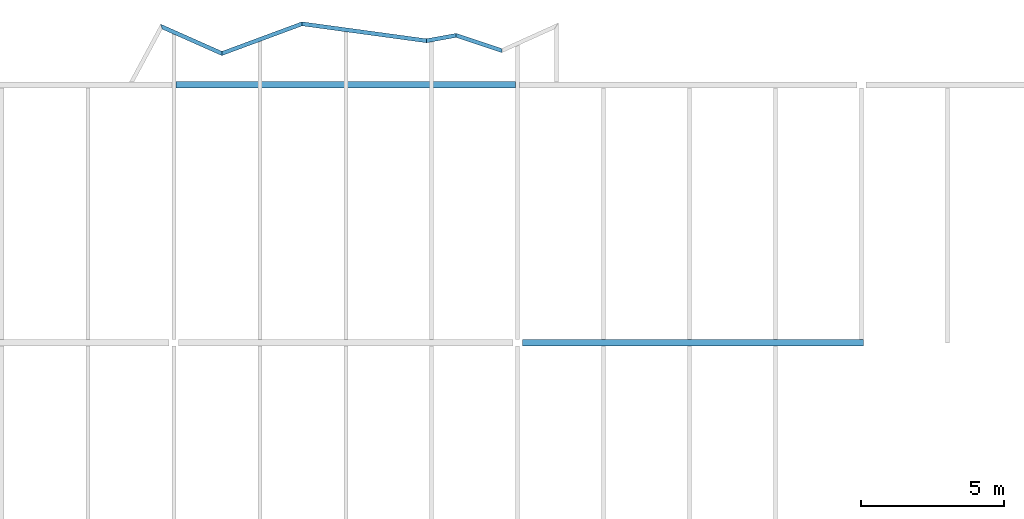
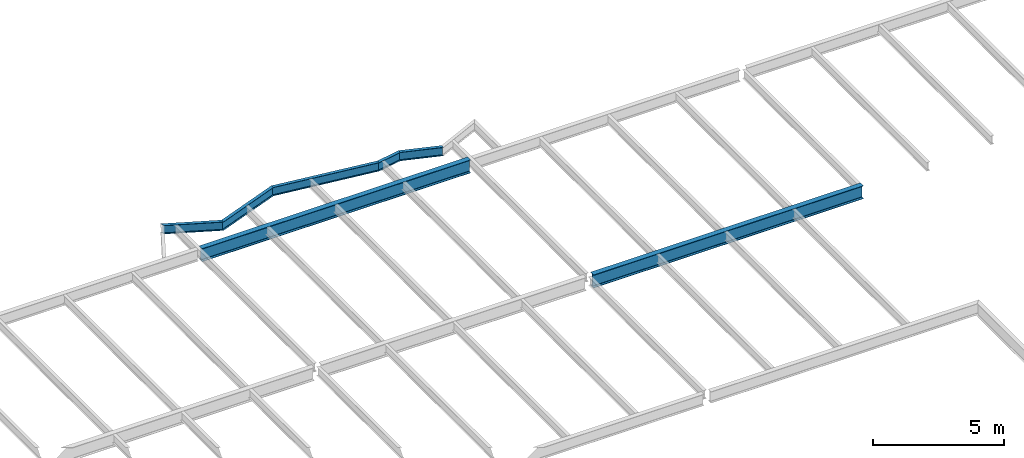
# One storey, part 8 of 21: 7 beams.
"""IFC2X3 building model written with IfcOpenShell, lengths in millimetres."""

from ifc_helpers import new_model, si_unit, origin, place, context, project, spatial, faceted_brep, material, element, save


model = new_model("IFC2X3")

# Units and contexts
context_of_model = context(None, 3, precision=1e-05, world=origin())
ifc_project = project(units=[si_unit("LENGTHUNIT", "METRE", prefix="MILLI")], contexts=[context_of_model])

# Building, storey
building = spatial("IfcBuilding", under=ifc_project, Name="Building", CompositionType="ELEMENT")
storey = spatial("IfcBuildingStorey", under=building, Name="FL3-FRM", CompositionType="ELEMENT")

# Beams
ifc_material_1 = material(Name="A992")
beam_1_placement = place(None, origin())
element("IfcBeam", 1, at=beam_1_placement, inside=storey, material=ifc_material_1, Name="Column457", context=context_of_model, shape_type="Brep", body=[
    faceted_brep([(-23930.0, 35885.5, 8261.0), (-23930.0, 36114.5, 8261.0), (-12070.0, 36114.5, 8261.0), (-12070.0, 35885.5, 8261.0), (-23930.0, 36114.5, 8280.6), (-12070.0, 36114.5, 8280.6), (-23930.0, 36018.6, 8280.6), (-12070.0, 36018.6, 8280.6), (-23930.0, 36015.4, 8281.03), (-12070.0, 36015.4, 8281.03), (-23930.0, 36012.3, 8282.3), (-12070.0, 36012.3, 8282.3), (-23930.0, 36009.7, 8284.32), (-12070.0, 36009.7, 8284.32), (-23930.0, 36007.7, 8286.95), (-12070.0, 36007.7, 8286.95), (-23930.0, 36006.4, 8290.01), (-12070.0, 36006.4, 8290.01), (-23930.0, 36005.9, 8293.3), (-12070.0, 36005.9, 8293.3), (-23930.0, 36005.9, 8840.7), (-12070.0, 36005.9, 8840.7), (-23930.0, 36006.4, 8843.99), (-12070.0, 36006.4, 8843.99), (-23930.0, 36007.7, 8847.05), (-12070.0, 36007.7, 8847.05), (-23930.0, 36009.7, 8849.68), (-12070.0, 36009.7, 8849.68), (-23930.0, 36012.3, 8851.7), (-12070.0, 36012.3, 8851.7), (-23930.0, 36015.4, 8852.97), (-12070.0, 36015.4, 8852.97), (-23930.0, 36018.6, 8853.4), (-12070.0, 36018.6, 8853.4), (-23930.0, 36114.5, 8853.4), (-12070.0, 36114.5, 8853.4), (-23930.0, 36114.5, 8873.0), (-12070.0, 36114.5, 8873.0), (-23930.0, 35885.5, 8873.0), (-12070.0, 35885.5, 8873.0), (-23930.0, 35885.5, 8853.4), (-12070.0, 35885.5, 8853.4), (-23930.0, 35981.4, 8853.4), (-12070.0, 35981.4, 8853.4), (-23930.0, 35984.6, 8852.97), (-12070.0, 35984.6, 8852.97), (-23930.0, 35987.7, 8851.7), (-12070.0, 35987.7, 8851.7), (-23930.0, 35990.3, 8849.68), (-12070.0, 35990.3, 8849.68), (-23930.0, 35992.3, 8847.05), (-12070.0, 35992.3, 8847.05), (-23930.0, 35993.6, 8843.99), (-12070.0, 35993.6, 8843.99), (-23930.0, 35994.1, 8840.7), (-12070.0, 35994.1, 8840.7), (-23930.0, 35994.1, 8293.3), (-12070.0, 35994.1, 8293.3), (-23930.0, 35993.6, 8290.01), (-12070.0, 35993.6, 8290.01), (-23930.0, 35992.3, 8286.95), (-12070.0, 35992.3, 8286.95), (-23930.0, 35990.3, 8284.32), (-12070.0, 35990.3, 8284.32), (-23930.0, 35987.7, 8282.3), (-12070.0, 35987.7, 8282.3), (-23930.0, 35984.6, 8281.03), (-12070.0, 35984.6, 8281.03), (-23930.0, 35981.4, 8280.6), (-12070.0, 35981.4, 8280.6), (-23930.0, 35885.5, 8280.6), (-12070.0, 35885.5, 8280.6)], [[[0, 1, 2, 3]], [[1, 4, 5, 2]], [[4, 6, 7, 5]], [[6, 8, 9, 7]], [[8, 10, 11, 9]], [[10, 12, 13, 11]], [[12, 14, 15, 13]], [[14, 16, 17, 15]], [[16, 18, 19, 17]], [[18, 20, 21, 19]], [[20, 22, 23, 21]], [[22, 24, 25, 23]], [[24, 26, 27, 25]], [[26, 28, 29, 27]], [[28, 30, 31, 29]], [[30, 32, 33, 31]], [[32, 34, 35, 33]], [[34, 36, 37, 35]], [[36, 38, 39, 37]], [[38, 40, 41, 39]], [[40, 42, 43, 41]], [[42, 44, 45, 43]], [[44, 46, 47, 45]], [[46, 48, 49, 47]], [[48, 50, 51, 49]], [[50, 52, 53, 51]], [[52, 54, 55, 53]], [[54, 56, 57, 55]], [[56, 58, 59, 57]], [[58, 60, 61, 59]], [[60, 62, 63, 61]], [[62, 64, 65, 63]], [[64, 66, 67, 65]], [[66, 68, 69, 67]], [[68, 70, 71, 69]], [[70, 0, 3, 71]], [[0, 70, 68, 66, 64, 62, 60, 58, 56, 54, 52, 50, 48, 46, 44, 42, 40, 38, 36, 34, 32, 30, 28, 26, 24, 22, 20, 18, 16, 14, 12, 10, 8, 6, 4, 1]], [[3, 2, 5, 7, 9, 11, 13, 15, 17, 19, 21, 23, 25, 27, 29, 31, 33, 35, 37, 39, 41, 43, 45, 47, 49, 51, 53, 55, 57, 59, 61, 63, 65, 67, 69, 71]]]),
])
ifc_material_2 = material(Name="A992")
beam_2_placement = place(None, origin())
element("IfcBeam", 2, at=beam_2_placement, inside=storey, material=ifc_material_2, Name="Column460", context=context_of_model, shape_type="Brep", body=[
    faceted_brep([(-11836.5, 26885.5, 8261.0), (-11836.5, 27114.5, 8261.0), (70.0, 27114.5, 8261.0), (70.0, 26885.5, 8261.0), (-11836.5, 27114.5, 8280.6), (70.0, 27114.5, 8280.6), (-11836.5, 27018.6, 8280.6), (70.0, 27018.6, 8280.6), (-11836.5, 27015.4, 8281.03), (70.0, 27015.4, 8281.03), (-11836.5, 27012.3, 8282.3), (70.0, 27012.3, 8282.3), (-11836.5, 27009.7, 8284.32), (70.0, 27009.7, 8284.32), (-11836.5, 27007.7, 8286.95), (70.0, 27007.7, 8286.95), (-11836.5, 27006.4, 8290.01), (70.0, 27006.4, 8290.01), (-11836.5, 27005.9, 8293.3), (70.0, 27005.9, 8293.3), (-11836.5, 27005.9, 8840.7), (70.0, 27005.9, 8840.7), (-11836.5, 27006.4, 8843.99), (70.0, 27006.4, 8843.99), (-11836.5, 27007.7, 8847.05), (70.0, 27007.7, 8847.05), (-11836.5, 27009.7, 8849.68), (70.0, 27009.7, 8849.68), (-11836.5, 27012.3, 8851.7), (70.0, 27012.3, 8851.7), (-11836.5, 27015.4, 8852.97), (70.0, 27015.4, 8852.97), (-11836.5, 27018.6, 8853.4), (70.0, 27018.6, 8853.4), (-11836.5, 27114.5, 8853.4), (70.0, 27114.5, 8853.4), (-11836.5, 27114.5, 8873.0), (70.0, 27114.5, 8873.0), (-11836.5, 26885.5, 8873.0), (70.0, 26885.5, 8873.0), (-11836.5, 26885.5, 8853.4), (70.0, 26885.5, 8853.4), (-11836.5, 26981.4, 8853.4), (70.0, 26981.4, 8853.4), (-11836.5, 26984.6, 8852.97), (70.0, 26984.6, 8852.97), (-11836.5, 26987.7, 8851.7), (70.0, 26987.7, 8851.7), (-11836.5, 26990.3, 8849.68), (70.0, 26990.3, 8849.68), (-11836.5, 26992.3, 8847.05), (70.0, 26992.3, 8847.05), (-11836.5, 26993.6, 8843.99), (70.0, 26993.6, 8843.99), (-11836.5, 26994.1, 8840.7), (70.0, 26994.1, 8840.7), (-11836.5, 26994.1, 8293.3), (70.0, 26994.1, 8293.3), (-11836.5, 26993.6, 8290.01), (70.0, 26993.6, 8290.01), (-11836.5, 26992.3, 8286.95), (70.0, 26992.3, 8286.95), (-11836.5, 26990.3, 8284.32), (70.0, 26990.3, 8284.32), (-11836.5, 26987.7, 8282.3), (70.0, 26987.7, 8282.3), (-11836.5, 26984.6, 8281.03), (70.0, 26984.6, 8281.03), (-11836.5, 26981.4, 8280.6), (70.0, 26981.4, 8280.6), (-11836.5, 26885.5, 8280.6), (70.0, 26885.5, 8280.6)], [[[0, 1, 2, 3]], [[1, 4, 5, 2]], [[4, 6, 7, 5]], [[6, 8, 9, 7]], [[8, 10, 11, 9]], [[10, 12, 13, 11]], [[12, 14, 15, 13]], [[14, 16, 17, 15]], [[16, 18, 19, 17]], [[18, 20, 21, 19]], [[20, 22, 23, 21]], [[22, 24, 25, 23]], [[24, 26, 27, 25]], [[26, 28, 29, 27]], [[28, 30, 31, 29]], [[30, 32, 33, 31]], [[32, 34, 35, 33]], [[34, 36, 37, 35]], [[36, 38, 39, 37]], [[38, 40, 41, 39]], [[40, 42, 43, 41]], [[42, 44, 45, 43]], [[44, 46, 47, 45]], [[46, 48, 49, 47]], [[48, 50, 51, 49]], [[50, 52, 53, 51]], [[52, 54, 55, 53]], [[54, 56, 57, 55]], [[56, 58, 59, 57]], [[58, 60, 61, 59]], [[60, 62, 63, 61]], [[62, 64, 65, 63]], [[64, 66, 67, 65]], [[66, 68, 69, 67]], [[68, 70, 71, 69]], [[70, 0, 3, 71]], [[0, 70, 68, 66, 64, 62, 60, 58, 56, 54, 52, 50, 48, 46, 44, 42, 40, 38, 36, 34, 32, 30, 28, 26, 24, 22, 20, 18, 16, 14, 12, 10, 8, 6, 4, 1]], [[3, 2, 5, 7, 9, 11, 13, 15, 17, 19, 21, 23, 25, 27, 29, 31, 33, 35, 37, 39, 41, 43, 45, 47, 49, 51, 53, 55, 57, 59, 61, 63, 65, 67, 69, 71]]]),
])
ifc_material_3 = material(Name="A992")
beam_3_placement = place(None, origin())
element("IfcBeam", 3, at=beam_3_placement, inside=storey, material=ifc_material_3, Name="B1068", context=context_of_model, shape_type="Brep", body=[
    faceted_brep([(-14152.7, 37658.6, 8474.0), (-14142.4, 37802.8, 8474.0), (-12556.6, 37274.1, 8474.0), (-12548.9, 37124.0, 8474.0), (-14142.4, 37802.8, 8482.8), (-12556.6, 37274.1, 8482.8), (-14146.6, 37744.5, 8482.8), (-12553.5, 37213.4, 8482.8), (-14146.7, 37743.0, 8482.9), (-12553.4, 37211.9, 8482.9), (-14146.8, 37741.5, 8483.21), (-12553.3, 37210.4, 8483.21), (-14146.9, 37740.1, 8483.72), (-12553.2, 37208.9, 8483.72), (-14147.0, 37738.8, 8484.42), (-12553.1, 37207.5, 8484.41), (-14147.1, 37737.6, 8485.29), (-12553.1, 37206.3, 8485.28), (-14147.1, 37736.6, 8486.32), (-12553.0, 37205.2, 8486.32), (-14147.2, 37735.7, 8487.48), (-12553.0, 37204.3, 8487.48), (-14147.3, 37734.9, 8488.76), (-12552.9, 37203.5, 8488.76), (-14147.3, 37734.4, 8490.12), (-12552.9, 37203.0, 8490.12), (-14147.3, 37734.1, 8491.55), (-12552.9, 37202.6, 8491.54), (-14147.3, 37734.0, 8493.0), (-12552.9, 37202.5, 8493.0), (-14147.3, 37734.0, 8854.0), (-12552.9, 37202.5, 8854.0), (-14147.3, 37734.1, 8855.45), (-12552.9, 37202.6, 8855.46), (-14147.3, 37734.4, 8856.88), (-12552.9, 37203.0, 8856.88), (-14147.3, 37734.9, 8858.24), (-12552.9, 37203.5, 8858.24), (-14147.2, 37735.7, 8859.52), (-12553.0, 37204.3, 8859.52), (-14147.1, 37736.6, 8860.68), (-12553.0, 37205.2, 8860.68), (-14147.1, 37737.6, 8861.71), (-12553.1, 37206.3, 8861.72), (-14147.0, 37738.8, 8862.58), (-12553.1, 37207.5, 8862.59), (-14146.9, 37740.1, 8863.28), (-12553.2, 37208.9, 8863.28), (-14146.8, 37741.5, 8863.79), (-12553.3, 37210.4, 8863.79), (-14146.7, 37743.0, 8864.1), (-12553.4, 37211.9, 8864.1), (-14146.6, 37744.5, 8864.2), (-12553.5, 37213.4, 8864.2), (-14142.4, 37802.8, 8864.2), (-12556.6, 37274.1, 8864.2), (-14142.4, 37802.8, 8873.0), (-12556.6, 37274.1, 8873.0), (-14152.7, 37658.6, 8873.0), (-12548.9, 37124.0, 8873.0), (-14152.7, 37658.6, 8864.2), (-12548.9, 37124.0, 8864.2), (-14148.5, 37716.9, 8864.2), (-12552.0, 37184.7, 8864.2), (-14148.4, 37718.4, 8864.1), (-12552.1, 37186.3, 8864.1), (-14148.3, 37719.9, 8863.79), (-12552.1, 37187.8, 8863.79), (-14148.2, 37721.3, 8863.28), (-12552.2, 37189.2, 8863.28), (-14148.1, 37722.6, 8862.58), (-12552.3, 37190.6, 8862.59), (-14148.1, 37723.8, 8861.71), (-12552.3, 37191.9, 8861.72), (-14148.0, 37724.8, 8860.68), (-12552.4, 37193.0, 8860.68), (-14147.9, 37725.7, 8859.52), (-12552.4, 37193.9, 8859.52), (-14147.9, 37726.5, 8858.24), (-12552.5, 37194.7, 8858.24), (-14147.8, 37727.0, 8856.88), (-12552.5, 37195.2, 8856.88), (-14147.8, 37727.3, 8855.45), (-12552.5, 37195.5, 8855.46), (-14147.8, 37727.4, 8854.0), (-12552.5, 37195.6, 8854.0), (-14147.8, 37727.4, 8493.0), (-12552.5, 37195.6, 8493.0), (-14147.8, 37727.3, 8491.55), (-12552.5, 37195.5, 8491.54), (-14147.8, 37727.0, 8490.12), (-12552.5, 37195.2, 8490.12), (-14147.9, 37726.5, 8488.76), (-12552.5, 37194.7, 8488.76), (-14147.9, 37725.7, 8487.48), (-12552.4, 37193.9, 8487.48), (-14148.0, 37724.8, 8486.32), (-12552.4, 37193.0, 8486.32), (-14148.1, 37723.8, 8485.29), (-12552.3, 37191.9, 8485.28), (-14148.1, 37722.6, 8484.42), (-12552.3, 37190.6, 8484.41), (-14148.2, 37721.3, 8483.72), (-12552.2, 37189.2, 8483.72), (-14148.3, 37719.9, 8483.21), (-12552.1, 37187.8, 8483.21), (-14148.4, 37718.4, 8482.9), (-12552.1, 37186.3, 8482.9), (-14148.5, 37716.9, 8482.8), (-12552.0, 37184.7, 8482.8), (-14152.7, 37658.6, 8482.8), (-12548.9, 37124.0, 8482.8)], [[[0, 1, 2, 3]], [[1, 4, 5, 2]], [[4, 6, 7, 5]], [[6, 8, 9, 7]], [[8, 10, 11, 9]], [[10, 12, 13, 11]], [[12, 14, 15, 13]], [[14, 16, 17, 15]], [[16, 18, 19, 17]], [[18, 20, 21, 19]], [[20, 22, 23, 21]], [[22, 24, 25, 23]], [[24, 26, 27, 25]], [[26, 28, 29, 27]], [[28, 30, 31, 29]], [[30, 32, 33, 31]], [[32, 34, 35, 33]], [[34, 36, 37, 35]], [[36, 38, 39, 37]], [[38, 40, 41, 39]], [[40, 42, 43, 41]], [[42, 44, 45, 43]], [[44, 46, 47, 45]], [[46, 48, 49, 47]], [[48, 50, 51, 49]], [[50, 52, 53, 51]], [[52, 54, 55, 53]], [[54, 56, 57, 55]], [[56, 58, 59, 57]], [[58, 60, 61, 59]], [[60, 62, 63, 61]], [[62, 64, 65, 63]], [[64, 66, 67, 65]], [[66, 68, 69, 67]], [[68, 70, 71, 69]], [[70, 72, 73, 71]], [[72, 74, 75, 73]], [[74, 76, 77, 75]], [[76, 78, 79, 77]], [[78, 80, 81, 79]], [[80, 82, 83, 81]], [[82, 84, 85, 83]], [[84, 86, 87, 85]], [[86, 88, 89, 87]], [[88, 90, 91, 89]], [[90, 92, 93, 91]], [[92, 94, 95, 93]], [[94, 96, 97, 95]], [[96, 98, 99, 97]], [[98, 100, 101, 99]], [[100, 102, 103, 101]], [[102, 104, 105, 103]], [[104, 106, 107, 105]], [[106, 108, 109, 107]], [[108, 110, 111, 109]], [[110, 0, 3, 111]], [[0, 110, 108, 106, 104, 102, 100, 98, 96, 94, 92, 90, 88, 86, 84, 82, 80, 78, 76, 74, 72, 70, 68, 66, 64, 62, 60, 58, 56, 54, 52, 50, 48, 46, 44, 42, 40, 38, 36, 34, 32, 30, 28, 26, 24, 22, 20, 18, 16, 14, 12, 10, 8, 6, 4, 1]], [[3, 2, 5, 7, 9, 11, 13, 15, 17, 19, 21, 23, 25, 27, 29, 31, 33, 35, 37, 39, 41, 43, 45, 47, 49, 51, 53, 55, 57, 59, 61, 63, 65, 67, 69, 71, 73, 75, 77, 79, 81, 83, 85, 87, 89, 91, 93, 95, 97, 99, 101, 103, 105, 107, 109, 111]]]),
])
ifc_material_4 = material(Name="A992")
beam_4_placement = place(None, origin())
element("IfcBeam", 4, at=beam_4_placement, inside=storey, material=ifc_material_4, Name="B1069", context=context_of_model, shape_type="Brep", body=[
    faceted_brep([(-15183.8, 37471.1, 8474.0), (-15187.0, 37612.9, 8474.0), (-14142.4, 37802.8, 8474.0), (-14152.7, 37658.6, 8474.0), (-15187.0, 37612.9, 8482.8), (-14142.4, 37802.8, 8482.8), (-15185.7, 37555.6, 8482.8), (-14146.6, 37744.5, 8482.8), (-15185.7, 37554.1, 8482.9), (-14146.7, 37743.0, 8482.9), (-15185.7, 37552.7, 8483.21), (-14146.8, 37741.5, 8483.21), (-15185.6, 37551.3, 8483.72), (-14146.9, 37740.1, 8483.72), (-15185.6, 37550.0, 8484.42), (-14147.0, 37738.8, 8484.42), (-15185.6, 37548.8, 8485.29), (-14147.1, 37737.6, 8485.29), (-15185.5, 37547.8, 8486.32), (-14147.1, 37736.6, 8486.32), (-15185.5, 37546.9, 8487.48), (-14147.2, 37735.7, 8487.48), (-15185.5, 37546.2, 8488.76), (-14147.3, 37734.9, 8488.76), (-15185.5, 37545.7, 8490.13), (-14147.3, 37734.4, 8490.12), (-15185.5, 37545.3, 8491.55), (-14147.3, 37734.1, 8491.55), (-15185.5, 37545.2, 8493.0), (-14147.3, 37734.0, 8493.0), (-15185.5, 37545.2, 8854.0), (-14147.3, 37734.0, 8854.0), (-15185.5, 37545.3, 8855.45), (-14147.3, 37734.1, 8855.45), (-15185.5, 37545.7, 8856.87), (-14147.3, 37734.4, 8856.88), (-15185.5, 37546.2, 8858.24), (-14147.3, 37734.9, 8858.24), (-15185.5, 37546.9, 8859.52), (-14147.2, 37735.7, 8859.52), (-15185.5, 37547.8, 8860.68), (-14147.1, 37736.6, 8860.68), (-15185.6, 37548.8, 8861.71), (-14147.1, 37737.6, 8861.71), (-15185.6, 37550.0, 8862.58), (-14147.0, 37738.8, 8862.58), (-15185.6, 37551.3, 8863.28), (-14146.9, 37740.1, 8863.28), (-15185.7, 37552.7, 8863.79), (-14146.8, 37741.5, 8863.79), (-15185.7, 37554.1, 8864.1), (-14146.7, 37743.0, 8864.1), (-15185.7, 37555.6, 8864.2), (-14146.6, 37744.5, 8864.2), (-15187.0, 37612.9, 8864.2), (-14142.4, 37802.8, 8864.2), (-15187.0, 37612.9, 8873.0), (-14142.4, 37802.8, 8873.0), (-15183.8, 37471.1, 8873.0), (-14152.7, 37658.6, 8873.0), (-15183.8, 37471.1, 8864.2), (-14152.7, 37658.6, 8864.2), (-15185.1, 37528.4, 8864.2), (-14148.5, 37716.9, 8864.2), (-15185.1, 37529.9, 8864.1), (-14148.4, 37718.4, 8864.1), (-15185.2, 37531.3, 8863.79), (-14148.3, 37719.9, 8863.79), (-15185.2, 37532.7, 8863.28), (-14148.2, 37721.3, 8863.28), (-15185.2, 37534.0, 8862.58), (-14148.1, 37722.6, 8862.58), (-15185.3, 37535.2, 8861.71), (-14148.1, 37723.8, 8861.71), (-15185.3, 37536.2, 8860.68), (-14148.0, 37724.8, 8860.68), (-15185.3, 37537.1, 8859.52), (-14147.9, 37725.7, 8859.52), (-15185.3, 37537.8, 8858.24), (-14147.9, 37726.5, 8858.24), (-15185.3, 37538.3, 8856.87), (-14147.8, 37727.0, 8856.88), (-15185.3, 37538.6, 8855.45), (-14147.8, 37727.3, 8855.45), (-15185.3, 37538.8, 8854.0), (-14147.8, 37727.4, 8854.0), (-15185.3, 37538.8, 8493.0), (-14147.8, 37727.4, 8493.0), (-15185.3, 37538.6, 8491.55), (-14147.8, 37727.3, 8491.55), (-15185.3, 37538.3, 8490.13), (-14147.8, 37727.0, 8490.12), (-15185.3, 37537.8, 8488.76), (-14147.9, 37726.5, 8488.76), (-15185.3, 37537.1, 8487.48), (-14147.9, 37725.7, 8487.48), (-15185.3, 37536.2, 8486.32), (-14148.0, 37724.8, 8486.32), (-15185.3, 37535.2, 8485.29), (-14148.1, 37723.8, 8485.29), (-15185.2, 37534.0, 8484.42), (-14148.1, 37722.6, 8484.42), (-15185.2, 37532.7, 8483.72), (-14148.2, 37721.3, 8483.72), (-15185.2, 37531.3, 8483.21), (-14148.3, 37719.9, 8483.21), (-15185.1, 37529.9, 8482.9), (-14148.4, 37718.4, 8482.9), (-15185.1, 37528.4, 8482.8), (-14148.5, 37716.9, 8482.8), (-15183.8, 37471.1, 8482.8), (-14152.7, 37658.6, 8482.8)], [[[0, 1, 2, 3]], [[1, 4, 5, 2]], [[4, 6, 7, 5]], [[6, 8, 9, 7]], [[8, 10, 11, 9]], [[10, 12, 13, 11]], [[12, 14, 15, 13]], [[14, 16, 17, 15]], [[16, 18, 19, 17]], [[18, 20, 21, 19]], [[20, 22, 23, 21]], [[22, 24, 25, 23]], [[24, 26, 27, 25]], [[26, 28, 29, 27]], [[28, 30, 31, 29]], [[30, 32, 33, 31]], [[32, 34, 35, 33]], [[34, 36, 37, 35]], [[36, 38, 39, 37]], [[38, 40, 41, 39]], [[40, 42, 43, 41]], [[42, 44, 45, 43]], [[44, 46, 47, 45]], [[46, 48, 49, 47]], [[48, 50, 51, 49]], [[50, 52, 53, 51]], [[52, 54, 55, 53]], [[54, 56, 57, 55]], [[56, 58, 59, 57]], [[58, 60, 61, 59]], [[60, 62, 63, 61]], [[62, 64, 65, 63]], [[64, 66, 67, 65]], [[66, 68, 69, 67]], [[68, 70, 71, 69]], [[70, 72, 73, 71]], [[72, 74, 75, 73]], [[74, 76, 77, 75]], [[76, 78, 79, 77]], [[78, 80, 81, 79]], [[80, 82, 83, 81]], [[82, 84, 85, 83]], [[84, 86, 87, 85]], [[86, 88, 89, 87]], [[88, 90, 91, 89]], [[90, 92, 93, 91]], [[92, 94, 95, 93]], [[94, 96, 97, 95]], [[96, 98, 99, 97]], [[98, 100, 101, 99]], [[100, 102, 103, 101]], [[102, 104, 105, 103]], [[104, 106, 107, 105]], [[106, 108, 109, 107]], [[108, 110, 111, 109]], [[110, 0, 3, 111]], [[0, 110, 108, 106, 104, 102, 100, 98, 96, 94, 92, 90, 88, 86, 84, 82, 80, 78, 76, 74, 72, 70, 68, 66, 64, 62, 60, 58, 56, 54, 52, 50, 48, 46, 44, 42, 40, 38, 36, 34, 32, 30, 28, 26, 24, 22, 20, 18, 16, 14, 12, 10, 8, 6, 4, 1]], [[3, 2, 5, 7, 9, 11, 13, 15, 17, 19, 21, 23, 25, 27, 29, 31, 33, 35, 37, 39, 41, 43, 45, 47, 49, 51, 53, 55, 57, 59, 61, 63, 65, 67, 69, 71, 73, 75, 77, 79, 81, 83, 85, 87, 89, 91, 93, 95, 97, 99, 101, 103, 105, 107, 109, 111]]]),
])
ifc_material_5 = material(Name="A992")
beam_5_placement = place(None, origin())
element("IfcBeam", 5, at=beam_5_placement, inside=storey, material=ifc_material_5, Name="B1071", context=context_of_model, shape_type="Brep", body=[
    faceted_brep([(-15187.0, 37612.9, 8474.0), (-15183.8, 37471.1, 8474.0), (-19518.8, 38062.3, 8474.0), (-19534.6, 38205.7, 8474.0), (-15183.8, 37471.1, 8482.8), (-19518.8, 38062.3, 8482.8), (-15185.1, 37528.4, 8482.8), (-19525.2, 38120.3, 8482.8), (-15185.1, 37529.9, 8482.9), (-19525.4, 38121.7, 8482.9), (-15185.2, 37531.3, 8483.21), (-19525.5, 38123.2, 8483.21), (-15185.2, 37532.7, 8483.72), (-19525.7, 38124.6, 8483.72), (-15185.2, 37534.0, 8484.42), (-19525.8, 38125.9, 8484.42), (-15185.3, 37535.2, 8485.29), (-19526.0, 38127.1, 8485.29), (-15185.3, 37536.2, 8486.32), (-19526.1, 38128.2, 8486.32), (-15185.3, 37537.1, 8487.48), (-19526.2, 38129.1, 8487.48), (-15185.3, 37537.8, 8488.76), (-19526.3, 38129.8, 8488.76), (-15185.3, 37538.3, 8490.13), (-19526.3, 38130.3, 8490.12), (-15185.3, 37538.6, 8491.55), (-19526.3, 38130.6, 8491.55), (-15185.3, 37538.8, 8493.0), (-19526.4, 38130.7, 8493.0), (-15185.3, 37538.8, 8854.0), (-19526.4, 38130.7, 8854.0), (-15185.3, 37538.6, 8855.45), (-19526.3, 38130.6, 8855.45), (-15185.3, 37538.3, 8856.87), (-19526.3, 38130.3, 8856.88), (-15185.3, 37537.8, 8858.24), (-19526.3, 38129.8, 8858.24), (-15185.3, 37537.1, 8859.52), (-19526.2, 38129.1, 8859.52), (-15185.3, 37536.2, 8860.68), (-19526.1, 38128.2, 8860.68), (-15185.3, 37535.2, 8861.71), (-19526.0, 38127.1, 8861.71), (-15185.2, 37534.0, 8862.58), (-19525.8, 38125.9, 8862.58), (-15185.2, 37532.7, 8863.28), (-19525.7, 38124.6, 8863.28), (-15185.2, 37531.3, 8863.79), (-19525.5, 38123.2, 8863.79), (-15185.1, 37529.9, 8864.1), (-19525.4, 38121.7, 8864.1), (-15185.1, 37528.4, 8864.2), (-19525.2, 38120.3, 8864.2), (-15183.8, 37471.1, 8864.2), (-19518.8, 38062.3, 8864.2), (-15183.8, 37471.1, 8873.0), (-19518.8, 38062.3, 8873.0), (-15187.0, 37612.9, 8873.0), (-19534.6, 38205.7, 8873.0), (-15187.0, 37612.9, 8864.2), (-19534.6, 38205.7, 8864.2), (-15185.7, 37555.6, 8864.2), (-19528.2, 38147.7, 8864.2), (-15185.7, 37554.1, 8864.1), (-19528.1, 38146.2, 8864.1), (-15185.7, 37552.7, 8863.79), (-19527.9, 38144.8, 8863.79), (-15185.6, 37551.3, 8863.28), (-19527.8, 38143.4, 8863.28), (-15185.6, 37550.0, 8862.58), (-19527.6, 38142.1, 8862.58), (-15185.6, 37548.8, 8861.71), (-19527.5, 38140.9, 8861.71), (-15185.5, 37547.8, 8860.68), (-19527.4, 38139.8, 8860.68), (-15185.5, 37546.9, 8859.52), (-19527.3, 38138.9, 8859.52), (-15185.5, 37546.2, 8858.24), (-19527.2, 38138.2, 8858.24), (-15185.5, 37545.7, 8856.87), (-19527.1, 38137.7, 8856.88), (-15185.5, 37545.3, 8855.45), (-19527.1, 38137.4, 8855.45), (-15185.5, 37545.2, 8854.0), (-19527.1, 38137.3, 8854.0), (-15185.5, 37545.2, 8493.0), (-19527.1, 38137.3, 8493.0), (-15185.5, 37545.3, 8491.55), (-19527.1, 38137.4, 8491.55), (-15185.5, 37545.7, 8490.13), (-19527.1, 38137.7, 8490.12), (-15185.5, 37546.2, 8488.76), (-19527.2, 38138.2, 8488.76), (-15185.5, 37546.9, 8487.48), (-19527.3, 38138.9, 8487.48), (-15185.5, 37547.8, 8486.32), (-19527.4, 38139.8, 8486.32), (-15185.6, 37548.8, 8485.29), (-19527.5, 38140.9, 8485.29), (-15185.6, 37550.0, 8484.42), (-19527.6, 38142.1, 8484.42), (-15185.6, 37551.3, 8483.72), (-19527.8, 38143.4, 8483.72), (-15185.7, 37552.7, 8483.21), (-19527.9, 38144.8, 8483.21), (-15185.7, 37554.1, 8482.9), (-19528.1, 38146.2, 8482.9), (-15185.7, 37555.6, 8482.8), (-19528.2, 38147.7, 8482.8), (-15187.0, 37612.9, 8482.8), (-19534.6, 38205.7, 8482.8)], [[[0, 1, 2, 3]], [[1, 4, 5, 2]], [[4, 6, 7, 5]], [[6, 8, 9, 7]], [[8, 10, 11, 9]], [[10, 12, 13, 11]], [[12, 14, 15, 13]], [[14, 16, 17, 15]], [[16, 18, 19, 17]], [[18, 20, 21, 19]], [[20, 22, 23, 21]], [[22, 24, 25, 23]], [[24, 26, 27, 25]], [[26, 28, 29, 27]], [[28, 30, 31, 29]], [[30, 32, 33, 31]], [[32, 34, 35, 33]], [[34, 36, 37, 35]], [[36, 38, 39, 37]], [[38, 40, 41, 39]], [[40, 42, 43, 41]], [[42, 44, 45, 43]], [[44, 46, 47, 45]], [[46, 48, 49, 47]], [[48, 50, 51, 49]], [[50, 52, 53, 51]], [[52, 54, 55, 53]], [[54, 56, 57, 55]], [[56, 58, 59, 57]], [[58, 60, 61, 59]], [[60, 62, 63, 61]], [[62, 64, 65, 63]], [[64, 66, 67, 65]], [[66, 68, 69, 67]], [[68, 70, 71, 69]], [[70, 72, 73, 71]], [[72, 74, 75, 73]], [[74, 76, 77, 75]], [[76, 78, 79, 77]], [[78, 80, 81, 79]], [[80, 82, 83, 81]], [[82, 84, 85, 83]], [[84, 86, 87, 85]], [[86, 88, 89, 87]], [[88, 90, 91, 89]], [[90, 92, 93, 91]], [[92, 94, 95, 93]], [[94, 96, 97, 95]], [[96, 98, 99, 97]], [[98, 100, 101, 99]], [[100, 102, 103, 101]], [[102, 104, 105, 103]], [[104, 106, 107, 105]], [[106, 108, 109, 107]], [[108, 110, 111, 109]], [[110, 0, 3, 111]], [[0, 110, 108, 106, 104, 102, 100, 98, 96, 94, 92, 90, 88, 86, 84, 82, 80, 78, 76, 74, 72, 70, 68, 66, 64, 62, 60, 58, 56, 54, 52, 50, 48, 46, 44, 42, 40, 38, 36, 34, 32, 30, 28, 26, 24, 22, 20, 18, 16, 14, 12, 10, 8, 6, 4, 1]], [[3, 2, 5, 7, 9, 11, 13, 15, 17, 19, 21, 23, 25, 27, 29, 31, 33, 35, 37, 39, 41, 43, 45, 47, 49, 51, 53, 55, 57, 59, 61, 63, 65, 67, 69, 71, 73, 75, 77, 79, 81, 83, 85, 87, 89, 91, 93, 95, 97, 99, 101, 103, 105, 107, 109, 111]]]),
])
ifc_material_6 = material(Name="A992")
beam_6_placement = place(None, origin())
element("IfcBeam", 6, at=beam_6_placement, inside=storey, material=ifc_material_6, Name="B1073", context=context_of_model, shape_type="Brep", body=[
    faceted_brep([(-22324.7, 37023.1, 8474.0), (-22319.9, 37174.1, 8474.0), (-19534.6, 38205.7, 8474.0), (-19518.8, 38062.3, 8474.0), (-22319.9, 37174.1, 8482.8), (-19534.6, 38205.7, 8482.8), (-22321.8, 37113.1, 8482.8), (-19528.2, 38147.7, 8482.8), (-22321.9, 37111.5, 8482.9), (-19528.1, 38146.2, 8482.9), (-22321.9, 37110.0, 8483.21), (-19527.9, 38144.8, 8483.21), (-22322.0, 37108.5, 8483.72), (-19527.8, 38143.4, 8483.72), (-22322.0, 37107.1, 8484.41), (-19527.6, 38142.1, 8484.42), (-22322.1, 37105.9, 8485.28), (-19527.5, 38140.9, 8485.29), (-22322.1, 37104.7, 8486.32), (-19527.4, 38139.8, 8486.32), (-22322.1, 37103.8, 8487.48), (-19527.3, 38138.9, 8487.48), (-22322.1, 37103.0, 8488.76), (-19527.2, 38138.2, 8488.76), (-22322.2, 37102.5, 8490.12), (-19527.1, 38137.7, 8490.12), (-22322.2, 37102.2, 8491.54), (-19527.1, 38137.4, 8491.55), (-22322.2, 37102.1, 8493.0), (-19527.1, 38137.3, 8493.0), (-22322.2, 37102.1, 8854.0), (-19527.1, 38137.3, 8854.0), (-22322.2, 37102.2, 8855.46), (-19527.1, 38137.4, 8855.45), (-22322.2, 37102.5, 8856.88), (-19527.1, 38137.7, 8856.88), (-22322.1, 37103.0, 8858.24), (-19527.2, 38138.2, 8858.24), (-22322.1, 37103.8, 8859.52), (-19527.3, 38138.9, 8859.52), (-22322.1, 37104.7, 8860.68), (-19527.4, 38139.8, 8860.68), (-22322.1, 37105.9, 8861.72), (-19527.5, 38140.9, 8861.71), (-22322.0, 37107.1, 8862.59), (-19527.6, 38142.1, 8862.58), (-22322.0, 37108.5, 8863.28), (-19527.8, 38143.4, 8863.28), (-22321.9, 37110.0, 8863.79), (-19527.9, 38144.8, 8863.79), (-22321.9, 37111.5, 8864.1), (-19528.1, 38146.2, 8864.1), (-22321.8, 37113.1, 8864.2), (-19528.2, 38147.7, 8864.2), (-22319.9, 37174.1, 8864.2), (-19534.6, 38205.7, 8864.2), (-22319.9, 37174.1, 8873.0), (-19534.6, 38205.7, 8873.0), (-22324.7, 37023.1, 8873.0), (-19518.8, 38062.3, 8873.0), (-22324.7, 37023.1, 8864.2), (-19518.8, 38062.3, 8864.2), (-22322.7, 37084.1, 8864.2), (-19525.2, 38120.3, 8864.2), (-22322.7, 37085.7, 8864.1), (-19525.4, 38121.7, 8864.1), (-22322.6, 37087.2, 8863.79), (-19525.5, 38123.2, 8863.79), (-22322.6, 37088.7, 8863.28), (-19525.7, 38124.6, 8863.28), (-22322.6, 37090.1, 8862.59), (-19525.8, 38125.9, 8862.58), (-22322.5, 37091.3, 8861.72), (-19526.0, 38127.1, 8861.71), (-22322.5, 37092.4, 8860.68), (-19526.1, 38128.2, 8860.68), (-22322.4, 37093.4, 8859.52), (-19526.2, 38129.1, 8859.52), (-22322.4, 37094.1, 8858.24), (-19526.3, 38129.8, 8858.24), (-22322.4, 37094.7, 8856.88), (-19526.3, 38130.3, 8856.88), (-22322.4, 37095.0, 8855.46), (-19526.3, 38130.6, 8855.45), (-22322.4, 37095.1, 8854.0), (-19526.4, 38130.7, 8854.0), (-22322.4, 37095.1, 8493.0), (-19526.4, 38130.7, 8493.0), (-22322.4, 37095.0, 8491.54), (-19526.3, 38130.6, 8491.55), (-22322.4, 37094.7, 8490.12), (-19526.3, 38130.3, 8490.12), (-22322.4, 37094.1, 8488.76), (-19526.3, 38129.8, 8488.76), (-22322.4, 37093.4, 8487.48), (-19526.2, 38129.1, 8487.48), (-22322.5, 37092.4, 8486.32), (-19526.1, 38128.2, 8486.32), (-22322.5, 37091.3, 8485.28), (-19526.0, 38127.1, 8485.29), (-22322.6, 37090.1, 8484.41), (-19525.8, 38125.9, 8484.42), (-22322.6, 37088.7, 8483.72), (-19525.7, 38124.6, 8483.72), (-22322.6, 37087.2, 8483.21), (-19525.5, 38123.2, 8483.21), (-22322.7, 37085.7, 8482.9), (-19525.4, 38121.7, 8482.9), (-22322.7, 37084.1, 8482.8), (-19525.2, 38120.3, 8482.8), (-22324.7, 37023.1, 8482.8), (-19518.8, 38062.3, 8482.8)], [[[0, 1, 2, 3]], [[1, 4, 5, 2]], [[4, 6, 7, 5]], [[6, 8, 9, 7]], [[8, 10, 11, 9]], [[10, 12, 13, 11]], [[12, 14, 15, 13]], [[14, 16, 17, 15]], [[16, 18, 19, 17]], [[18, 20, 21, 19]], [[20, 22, 23, 21]], [[22, 24, 25, 23]], [[24, 26, 27, 25]], [[26, 28, 29, 27]], [[28, 30, 31, 29]], [[30, 32, 33, 31]], [[32, 34, 35, 33]], [[34, 36, 37, 35]], [[36, 38, 39, 37]], [[38, 40, 41, 39]], [[40, 42, 43, 41]], [[42, 44, 45, 43]], [[44, 46, 47, 45]], [[46, 48, 49, 47]], [[48, 50, 51, 49]], [[50, 52, 53, 51]], [[52, 54, 55, 53]], [[54, 56, 57, 55]], [[56, 58, 59, 57]], [[58, 60, 61, 59]], [[60, 62, 63, 61]], [[62, 64, 65, 63]], [[64, 66, 67, 65]], [[66, 68, 69, 67]], [[68, 70, 71, 69]], [[70, 72, 73, 71]], [[72, 74, 75, 73]], [[74, 76, 77, 75]], [[76, 78, 79, 77]], [[78, 80, 81, 79]], [[80, 82, 83, 81]], [[82, 84, 85, 83]], [[84, 86, 87, 85]], [[86, 88, 89, 87]], [[88, 90, 91, 89]], [[90, 92, 93, 91]], [[92, 94, 95, 93]], [[94, 96, 97, 95]], [[96, 98, 99, 97]], [[98, 100, 101, 99]], [[100, 102, 103, 101]], [[102, 104, 105, 103]], [[104, 106, 107, 105]], [[106, 108, 109, 107]], [[108, 110, 111, 109]], [[110, 0, 3, 111]], [[0, 110, 108, 106, 104, 102, 100, 98, 96, 94, 92, 90, 88, 86, 84, 82, 80, 78, 76, 74, 72, 70, 68, 66, 64, 62, 60, 58, 56, 54, 52, 50, 48, 46, 44, 42, 40, 38, 36, 34, 32, 30, 28, 26, 24, 22, 20, 18, 16, 14, 12, 10, 8, 6, 4, 1]], [[3, 2, 5, 7, 9, 11, 13, 15, 17, 19, 21, 23, 25, 27, 29, 31, 33, 35, 37, 39, 41, 43, 45, 47, 49, 51, 53, 55, 57, 59, 61, 63, 65, 67, 69, 71, 73, 75, 77, 79, 81, 83, 85, 87, 89, 91, 93, 95, 97, 99, 101, 103, 105, 107, 109, 111]]]),
])
ifc_material_7 = material(Name="A992")
beam_7_placement = place(None, origin())
element("IfcBeam", 7, at=beam_7_placement, inside=storey, material=ifc_material_7, Name="B1075", context=context_of_model, shape_type="Brep", body=[
    faceted_brep([(-24403.2, 37946.8, 8474.0), (-24464.9, 38127.5, 8474.0), (-22319.9, 37174.1, 8474.0), (-22324.7, 37023.1, 8474.0), (-24464.9, 38127.5, 8482.8), (-22319.9, 37174.1, 8482.8), (-24440.0, 38054.5, 8482.8), (-22321.8, 37113.1, 8482.8), (-24439.3, 38052.4, 8482.9), (-22321.9, 37111.3, 8482.92), (-24438.6, 38050.4, 8483.28), (-22321.9, 37109.7, 8483.3), (-24437.9, 38048.5, 8483.9), (-22322.0, 37108.1, 8483.91), (-24437.3, 38046.8, 8484.71), (-22322.0, 37106.6, 8484.74), (-24436.8, 38045.1, 8485.79), (-22322.1, 37105.3, 8485.79), (-24436.3, 38043.8, 8486.97), (-22322.1, 37104.2, 8487.0), (-24436.0, 38042.7, 8488.33), (-22322.1, 37103.3, 8488.36), (-24435.7, 38042.0, 8489.83), (-22322.2, 37102.6, 8489.84), (-24435.5, 38041.5, 8491.38), (-22322.2, 37102.2, 8491.4), (-24435.5, 38041.3, 8493.0), (-22322.2, 37102.1, 8493.0), (-24435.5, 38041.3, 8854.0), (-22322.2, 37102.1, 8854.0), (-24435.5, 38041.5, 8855.62), (-22322.2, 37102.2, 8855.6), (-24435.7, 38042.0, 8857.17), (-22322.2, 37102.6, 8857.16), (-24436.0, 38042.7, 8858.67), (-22322.1, 37103.3, 8858.64), (-24436.3, 38043.8, 8860.03), (-22322.1, 37104.2, 8860.0), (-24436.8, 38045.1, 8861.21), (-22322.1, 37105.3, 8861.21), (-24437.3, 38046.8, 8862.29), (-22322.0, 37106.6, 8862.26), (-24437.9, 38048.5, 8863.1), (-22322.0, 37108.1, 8863.09), (-24438.6, 38050.4, 8863.72), (-22321.9, 37109.7, 8863.7), (-24439.3, 38052.4, 8864.1), (-22321.9, 37111.3, 8864.08), (-24440.0, 38054.5, 8864.2), (-22321.8, 37113.1, 8864.2), (-24464.9, 38127.5, 8864.2), (-22319.9, 37174.1, 8864.2), (-24464.9, 38127.5, 8873.0), (-22319.9, 37174.1, 8873.0), (-24403.2, 37946.8, 8873.0), (-22324.7, 37023.1, 8873.0), (-24403.2, 37946.8, 8864.2), (-22324.7, 37023.1, 8864.2), (-24428.1, 38019.9, 8864.2), (-22322.7, 37084.1, 8864.2), (-24428.8, 38021.9, 8864.1), (-22322.7, 37085.9, 8864.08), (-24429.5, 38023.9, 8863.72), (-22322.6, 37087.5, 8863.7), (-24430.2, 38025.8, 8863.1), (-22322.6, 37089.1, 8863.09), (-24430.8, 38027.6, 8862.29), (-22322.5, 37090.6, 8862.26), (-24431.3, 38029.2, 8861.21), (-22322.5, 37091.9, 8861.21), (-24431.8, 38030.5, 8860.03), (-22322.5, 37093.0, 8860.0), (-24432.2, 38031.6, 8858.67), (-22322.4, 37093.9, 8858.64), (-24432.4, 38032.4, 8857.17), (-22322.4, 37094.6, 8857.16), (-24432.6, 38032.8, 8855.62), (-22322.4, 37095.0, 8855.6), (-24432.6, 38033.0, 8854.0), (-22322.4, 37095.1, 8854.0), (-24432.6, 38033.0, 8493.0), (-22322.4, 37095.1, 8493.0), (-24432.6, 38032.8, 8491.38), (-22322.4, 37095.0, 8491.4), (-24432.4, 38032.4, 8489.83), (-22322.4, 37094.6, 8489.84), (-24432.2, 38031.6, 8488.33), (-22322.4, 37093.9, 8488.36), (-24431.8, 38030.5, 8486.97), (-22322.5, 37093.0, 8487.0), (-24431.3, 38029.2, 8485.79), (-22322.5, 37091.9, 8485.79), (-24430.8, 38027.6, 8484.71), (-22322.5, 37090.6, 8484.74), (-24430.2, 38025.8, 8483.9), (-22322.6, 37089.1, 8483.91), (-24429.5, 38023.9, 8483.28), (-22322.6, 37087.5, 8483.3), (-24428.8, 38021.9, 8482.9), (-22322.7, 37085.9, 8482.92), (-24428.1, 38019.9, 8482.8), (-22322.7, 37084.1, 8482.8), (-24403.2, 37946.8, 8482.8), (-22324.7, 37023.1, 8482.8)], [[[0, 1, 2, 3]], [[1, 4, 5, 2]], [[4, 6, 7, 5]], [[6, 8, 9, 7]], [[8, 10, 11, 9]], [[10, 12, 13, 11]], [[12, 14, 15, 13]], [[14, 16, 17, 15]], [[16, 18, 19, 17]], [[18, 20, 21, 19]], [[20, 22, 23, 21]], [[22, 24, 25, 23]], [[24, 26, 27, 25]], [[26, 28, 29, 27]], [[28, 30, 31, 29]], [[30, 32, 33, 31]], [[32, 34, 35, 33]], [[34, 36, 37, 35]], [[36, 38, 39, 37]], [[38, 40, 41, 39]], [[40, 42, 43, 41]], [[42, 44, 45, 43]], [[44, 46, 47, 45]], [[46, 48, 49, 47]], [[48, 50, 51, 49]], [[50, 52, 53, 51]], [[52, 54, 55, 53]], [[54, 56, 57, 55]], [[56, 58, 59, 57]], [[58, 60, 61, 59]], [[60, 62, 63, 61]], [[62, 64, 65, 63]], [[64, 66, 67, 65]], [[66, 68, 69, 67]], [[68, 70, 71, 69]], [[70, 72, 73, 71]], [[72, 74, 75, 73]], [[74, 76, 77, 75]], [[76, 78, 79, 77]], [[78, 80, 81, 79]], [[80, 82, 83, 81]], [[82, 84, 85, 83]], [[84, 86, 87, 85]], [[86, 88, 89, 87]], [[88, 90, 91, 89]], [[90, 92, 93, 91]], [[92, 94, 95, 93]], [[94, 96, 97, 95]], [[96, 98, 99, 97]], [[98, 100, 101, 99]], [[100, 102, 103, 101]], [[102, 0, 3, 103]], [[0, 102, 100, 98, 96, 94, 92, 90, 88, 86, 84, 82, 80, 78, 76, 74, 72, 70, 68, 66, 64, 62, 60, 58, 56, 54, 52, 50, 48, 46, 44, 42, 40, 38, 36, 34, 32, 30, 28, 26, 24, 22, 20, 18, 16, 14, 12, 10, 8, 6, 4, 1]], [[3, 2, 5, 7, 9, 11, 13, 15, 17, 19, 21, 23, 25, 27, 29, 31, 33, 35, 37, 39, 41, 43, 45, 47, 49, 51, 53, 55, 57, 59, 61, 63, 65, 67, 69, 71, 73, 75, 77, 79, 81, 83, 85, 87, 89, 91, 93, 95, 97, 99, 101, 103]]]),
])

save(model, "model.ifc")
